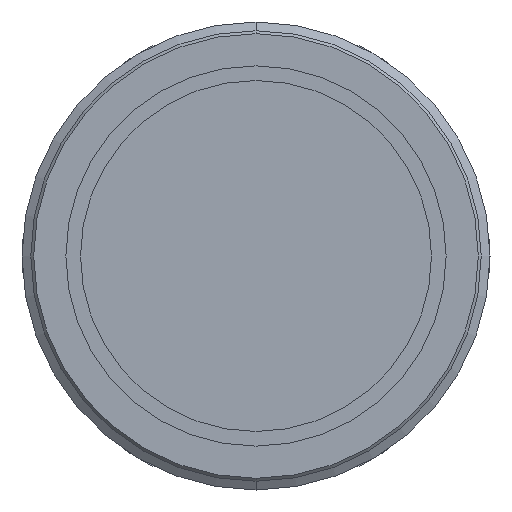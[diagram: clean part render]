
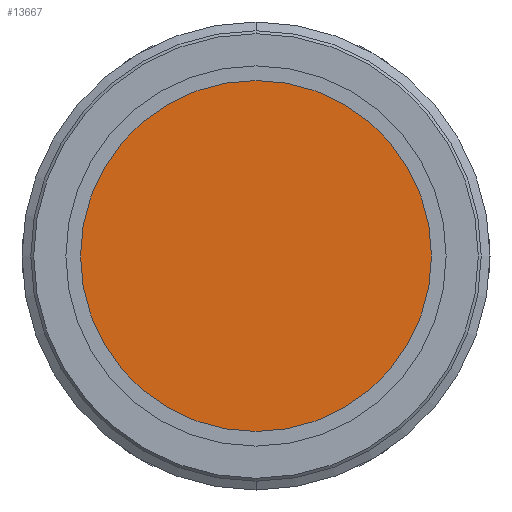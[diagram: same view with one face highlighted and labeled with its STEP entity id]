
A CAD part, front view. The second image highlights one B-rep face of the part: STEP entity #13667.
In plain terms, the highlighted planar face has unit normal (0, -1, 0).
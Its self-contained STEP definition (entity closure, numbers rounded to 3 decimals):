
#450 = DIRECTION ( 'NONE',  ( 0., -1., 0. ) ) ;
#615 = VERTEX_POINT ( 'NONE', #2768 ) ;
#664 = DIRECTION ( 'NONE',  ( 0., 0., 1. ) ) ;
#2768 = CARTESIAN_POINT ( 'NONE',  ( 0., -51.899, -30. ) ) ;
#3046 = EDGE_LOOP ( 'NONE', ( #9238, #11712 ) ) ;
#3122 = CARTESIAN_POINT ( 'NONE',  ( 0., -51.899, 30. ) ) ;
#3482 = EDGE_CURVE ( 'NONE', #615, #7964, #6347, .T. ) ;
#5017 = DIRECTION ( 'NONE',  ( 0., -1., 0. ) ) ;
#6347 = CIRCLE ( 'NONE', #10877, 30. ) ;
#6946 = CARTESIAN_POINT ( 'NONE',  ( 0., -51.899, 0. ) ) ;
#7169 = DIRECTION ( 'NONE',  ( 0., 1., 0. ) ) ;
#7964 = VERTEX_POINT ( 'NONE', #3122 ) ;
#8031 = DIRECTION ( 'NONE',  ( 0., 0., -1. ) ) ;
#8149 = FACE_OUTER_BOUND ( 'NONE', #3046, .T. ) ;
#8980 = EDGE_CURVE ( 'NONE', #7964, #615, #9860, .T. ) ;
#9238 = ORIENTED_EDGE ( 'NONE', *, *, #3482, .T. ) ;
#9860 = CIRCLE ( 'NONE', #11336, 30. ) ;
#9894 = AXIS2_PLACEMENT_3D ( 'NONE', #13713, #7169, #664 ) ;
#10364 = PLANE ( 'NONE',  #9894 ) ;
#10877 = AXIS2_PLACEMENT_3D ( 'NONE', #11580, #5017, #12666 ) ;
#11336 = AXIS2_PLACEMENT_3D ( 'NONE', #6946, #450, #8031 ) ;
#11580 = CARTESIAN_POINT ( 'NONE',  ( 0., -51.899, 0. ) ) ;
#11712 = ORIENTED_EDGE ( 'NONE', *, *, #8980, .T. ) ;
#12666 = DIRECTION ( 'NONE',  ( 0., 0., -1. ) ) ;
#13667 = ADVANCED_FACE ( 'NONE', ( #8149 ), #10364, .F. ) ;
#13713 = CARTESIAN_POINT ( 'NONE',  ( -30., -51.899, 0. ) ) ;
